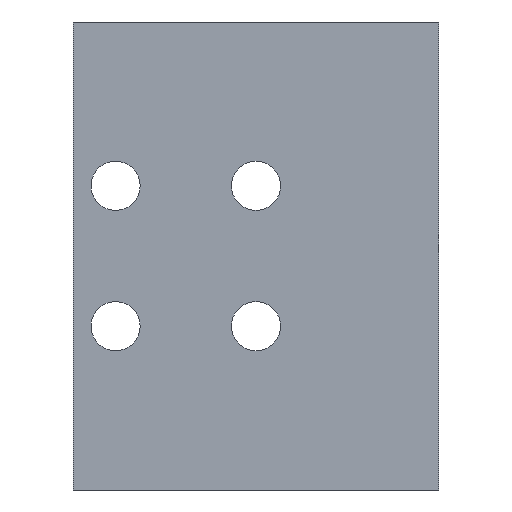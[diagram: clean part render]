
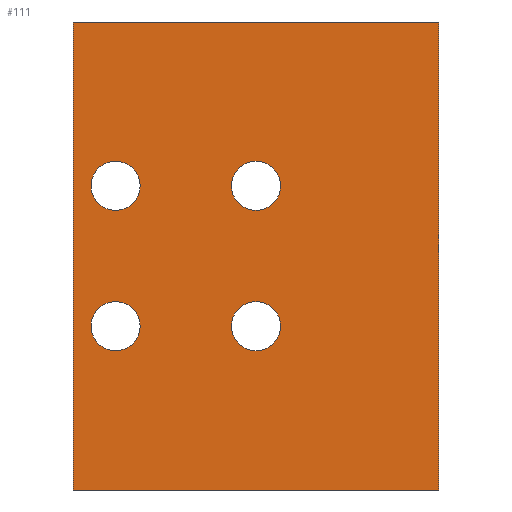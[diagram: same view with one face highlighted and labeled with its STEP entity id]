
A CAD part, front view. The second image highlights one B-rep face of the part: STEP entity #111.
In plain terms, the highlighted planar face has unit normal (0, -1, 0).
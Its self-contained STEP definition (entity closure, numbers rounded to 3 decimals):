
#103 = EDGE_CURVE( '', #187, #151, #274, .T. );
#107 = EDGE_CURVE( '', #209, #165, #279, .T. );
#111 = ADVANCED_FACE( '', ( #284, #285, #286, #287, #288 ), #289, .T. );
#141 = EDGE_CURVE( '', #165, #209, #322, .T. );
#145 = EDGE_CURVE( '', #199, #207, #326, .T. );
#151 = VERTEX_POINT( '', #332 );
#153 = EDGE_CURVE( '', #217, #195, #334, .T. );
#155 = EDGE_CURVE( '', #245, #175, #336, .T. );
#163 = EDGE_CURVE( '', #151, #187, #346, .T. );
#165 = VERTEX_POINT( '', #348 );
#175 = VERTEX_POINT( '', #358 );
#183 = EDGE_CURVE( '', #215, #239, #367, .T. );
#187 = VERTEX_POINT( '', #371 );
#193 = EDGE_CURVE( '', #215, #199, #377, .T. );
#195 = VERTEX_POINT( '', #379 );
#199 = VERTEX_POINT( '', #383 );
#205 = EDGE_CURVE( '', #175, #245, #390, .T. );
#207 = VERTEX_POINT( '', #392 );
#209 = VERTEX_POINT( '', #394 );
#215 = VERTEX_POINT( '', #401 );
#217 = VERTEX_POINT( '', #403 );
#221 = EDGE_CURVE( '', #239, #207, #407, .T. );
#239 = VERTEX_POINT( '', #426 );
#243 = EDGE_CURVE( '', #195, #217, #431, .T. );
#245 = VERTEX_POINT( '', #433 );
#274 = CIRCLE( '', #455, 5.25 );
#279 = CIRCLE( '', #461, 5.25 );
#284 = FACE_BOUND( '', #466, .T. );
#285 = FACE_BOUND( '', #467, .T. );
#286 = FACE_BOUND( '', #468, .T. );
#287 = FACE_BOUND( '', #469, .T. );
#288 = FACE_OUTER_BOUND( '', #470, .T. );
#289 = PLANE( '', #471 );
#322 = CIRCLE( '', #517, 5.25 );
#326 = LINE( '', #522, #523 );
#332 = CARTESIAN_POINT( '', ( -35.25, 0., -15. ) );
#334 = CIRCLE( '', #533, 5.25 );
#336 = CIRCLE( '', #536, 5.25 );
#346 = CIRCLE( '', #548, 5.25 );
#348 = CARTESIAN_POINT( '', ( -5.25, 0., 15. ) );
#358 = CARTESIAN_POINT( '', ( -24.75, 0., 15. ) );
#367 = LINE( '', #578, #579 );
#371 = CARTESIAN_POINT( '', ( -24.75, 0., -15. ) );
#377 = LINE( '', #593, #594 );
#379 = CARTESIAN_POINT( '', ( -5.25, 0., -15. ) );
#383 = CARTESIAN_POINT( '', ( -39., 0., 50. ) );
#390 = CIRCLE( '', #610, 5.25 );
#392 = CARTESIAN_POINT( '', ( -39., 0., -50. ) );
#394 = CARTESIAN_POINT( '', ( 5.25, 0., 15. ) );
#401 = CARTESIAN_POINT( '', ( 39., 0., 50. ) );
#403 = CARTESIAN_POINT( '', ( 5.25, 0., -15. ) );
#407 = LINE( '', #630, #631 );
#426 = CARTESIAN_POINT( '', ( 39., 0., -50. ) );
#431 = CIRCLE( '', #662, 5.25 );
#433 = CARTESIAN_POINT( '', ( -35.25, 0., 15. ) );
#455 = AXIS2_PLACEMENT_3D( '', #687, #688, #689 );
#461 = AXIS2_PLACEMENT_3D( '', #698, #699, #700 );
#466 = EDGE_LOOP( '', ( #710, #711 ) );
#467 = EDGE_LOOP( '', ( #712, #713 ) );
#468 = EDGE_LOOP( '', ( #714, #715 ) );
#469 = EDGE_LOOP( '', ( #716, #717 ) );
#470 = EDGE_LOOP( '', ( #718, #719, #720, #721 ) );
#471 = AXIS2_PLACEMENT_3D( '', #722, #723, #724 );
#517 = AXIS2_PLACEMENT_3D( '', #760, #761, #762 );
#522 = CARTESIAN_POINT( '', ( -39., 0., 50. ) );
#523 = VECTOR( '', #763, 1. );
#533 = AXIS2_PLACEMENT_3D( '', #767, #768, #769 );
#536 = AXIS2_PLACEMENT_3D( '', #770, #771, #772 );
#548 = AXIS2_PLACEMENT_3D( '', #792, #793, #794 );
#578 = CARTESIAN_POINT( '', ( 39., 0., 50. ) );
#579 = VECTOR( '', #812, 1. );
#593 = CARTESIAN_POINT( '', ( 39., 0., 50. ) );
#594 = VECTOR( '', #816, 1. );
#610 = AXIS2_PLACEMENT_3D( '', #826, #827, #828 );
#630 = CARTESIAN_POINT( '', ( 39., 0., -50. ) );
#631 = VECTOR( '', #838, 1. );
#662 = AXIS2_PLACEMENT_3D( '', #863, #864, #865 );
#687 = CARTESIAN_POINT( '', ( -30., 0., -15. ) );
#688 = DIRECTION( '', ( 0., 1., 0. ) );
#689 = DIRECTION( '', ( -1., 0., 0. ) );
#698 = CARTESIAN_POINT( '', ( 0., 0., 15. ) );
#699 = DIRECTION( '', ( 0., 1., 0. ) );
#700 = DIRECTION( '', ( -1., 0., 0. ) );
#710 = ORIENTED_EDGE( '', *, *, #107, .T. );
#711 = ORIENTED_EDGE( '', *, *, #141, .T. );
#712 = ORIENTED_EDGE( '', *, *, #205, .T. );
#713 = ORIENTED_EDGE( '', *, *, #155, .T. );
#714 = ORIENTED_EDGE( '', *, *, #153, .T. );
#715 = ORIENTED_EDGE( '', *, *, #243, .T. );
#716 = ORIENTED_EDGE( '', *, *, #103, .T. );
#717 = ORIENTED_EDGE( '', *, *, #163, .T. );
#718 = ORIENTED_EDGE( '', *, *, #145, .T. );
#719 = ORIENTED_EDGE( '', *, *, #221, .F. );
#720 = ORIENTED_EDGE( '', *, *, #183, .F. );
#721 = ORIENTED_EDGE( '', *, *, #193, .T. );
#722 = CARTESIAN_POINT( '', ( 39., 0., 50. ) );
#723 = DIRECTION( '', ( 0., -1., 0. ) );
#724 = DIRECTION( '', ( 0., 0., 1. ) );
#760 = CARTESIAN_POINT( '', ( 0., 0., 15. ) );
#761 = DIRECTION( '', ( 0., 1., 0. ) );
#762 = DIRECTION( '', ( -1., 0., 0. ) );
#763 = DIRECTION( '', ( 0., 0., -1. ) );
#767 = CARTESIAN_POINT( '', ( 0., 0., -15. ) );
#768 = DIRECTION( '', ( 0., 1., 0. ) );
#769 = DIRECTION( '', ( -1., 0., 0. ) );
#770 = CARTESIAN_POINT( '', ( -30., 0., 15. ) );
#771 = DIRECTION( '', ( 0., 1., 0. ) );
#772 = DIRECTION( '', ( -1., 0., 0. ) );
#792 = CARTESIAN_POINT( '', ( -30., 0., -15. ) );
#793 = DIRECTION( '', ( 0., 1., 0. ) );
#794 = DIRECTION( '', ( -1., 0., 0. ) );
#812 = DIRECTION( '', ( 0., 0., -1. ) );
#816 = DIRECTION( '', ( -1., 0., 0. ) );
#826 = CARTESIAN_POINT( '', ( -30., 0., 15. ) );
#827 = DIRECTION( '', ( 0., 1., 0. ) );
#828 = DIRECTION( '', ( -1., 0., 0. ) );
#838 = DIRECTION( '', ( -1., 0., 0. ) );
#863 = CARTESIAN_POINT( '', ( 0., 0., -15. ) );
#864 = DIRECTION( '', ( 0., 1., 0. ) );
#865 = DIRECTION( '', ( -1., 0., 0. ) );
